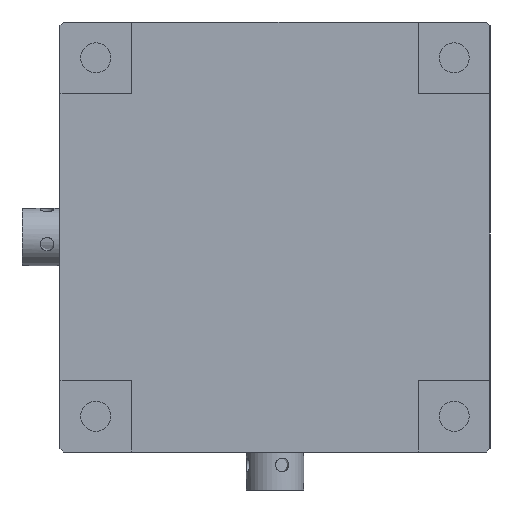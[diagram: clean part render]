
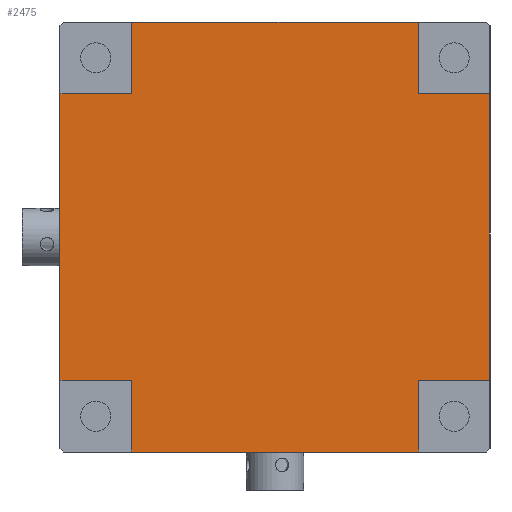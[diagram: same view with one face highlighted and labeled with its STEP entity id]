
A CAD part, front view. The second image highlights one B-rep face of the part: STEP entity #2475.
In plain terms, the highlighted planar face has unit normal (0, -1, 0).
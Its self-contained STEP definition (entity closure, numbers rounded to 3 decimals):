
#67 = EDGE_CURVE ( 'NONE', #5115, #147, #7533, .T. ) ;
#118 = VECTOR ( 'NONE', #4625, 1000. ) ;
#147 = VERTEX_POINT ( 'NONE', #3531 ) ;
#190 = LINE ( 'NONE', #1541, #1587 ) ;
#315 = DIRECTION ( 'NONE',  ( -1., 0., 0. ) ) ;
#581 = VERTEX_POINT ( 'NONE', #6015 ) ;
#787 = FACE_OUTER_BOUND ( 'NONE', #2776, .T. ) ;
#801 = ORIENTED_EDGE ( 'NONE', *, *, #7294, .F. ) ;
#943 = CARTESIAN_POINT ( 'NONE',  ( 10., 0.5, 0. ) ) ;
#974 = CARTESIAN_POINT ( 'NONE',  ( 10., 0.5, 60. ) ) ;
#1086 = CARTESIAN_POINT ( 'NONE',  ( 60., 0.5, 10. ) ) ;
#1215 = ORIENTED_EDGE ( 'NONE', *, *, #6021, .F. ) ;
#1309 = ORIENTED_EDGE ( 'NONE', *, *, #6066, .F. ) ;
#1471 = EDGE_CURVE ( 'NONE', #7653, #5667, #1743, .T. ) ;
#1541 = CARTESIAN_POINT ( 'NONE',  ( 50., 0.5, 10. ) ) ;
#1587 = VECTOR ( 'NONE', #7356, 1000. ) ;
#1672 = LINE ( 'NONE', #3141, #5557 ) ;
#1743 = LINE ( 'NONE', #7514, #5251 ) ;
#1809 = DIRECTION ( 'NONE',  ( -1., 0., 0. ) ) ;
#1936 = ORIENTED_EDGE ( 'NONE', *, *, #2197, .F. ) ;
#1989 = CARTESIAN_POINT ( 'NONE',  ( 10., 0.5, 10. ) ) ;
#2033 = DIRECTION ( 'NONE',  ( -1., 0., 0. ) ) ;
#2075 = ORIENTED_EDGE ( 'NONE', *, *, #2897, .F. ) ;
#2197 = EDGE_CURVE ( 'NONE', #5667, #7160, #6641, .T. ) ;
#2331 = DIRECTION ( 'NONE',  ( 0., 0., 1. ) ) ;
#2424 = DIRECTION ( 'NONE',  ( 0., 0., -1. ) ) ;
#2475 = ADVANCED_FACE ( 'NONE', ( #787 ), #3578, .F. ) ;
#2527 = VECTOR ( 'NONE', #6584, 1000. ) ;
#2529 = CARTESIAN_POINT ( 'NONE',  ( 60., 0.5, 10. ) ) ;
#2613 = DIRECTION ( 'NONE',  ( 0., 0., 1. ) ) ;
#2725 = ORIENTED_EDGE ( 'NONE', *, *, #8890, .F. ) ;
#2776 = EDGE_LOOP ( 'NONE', ( #2725, #3741, #2075, #1936, #4529, #1215, #5760, #1309, #801, #7422, #7721, #6622 ) ) ;
#2799 = LINE ( 'NONE', #1989, #6059 ) ;
#2874 = DIRECTION ( 'NONE',  ( 0., 0., 1. ) ) ;
#2897 = EDGE_CURVE ( 'NONE', #7160, #5115, #1672, .T. ) ;
#2973 = CARTESIAN_POINT ( 'NONE',  ( 0., 0.5, 50. ) ) ;
#3141 = CARTESIAN_POINT ( 'NONE',  ( 60., 0.5, 50. ) ) ;
#3214 = LINE ( 'NONE', #6086, #8736 ) ;
#3296 = EDGE_CURVE ( 'NONE', #581, #7373, #6678, .T. ) ;
#3334 = VECTOR ( 'NONE', #5224, 1000. ) ;
#3370 = LINE ( 'NONE', #6248, #4852 ) ;
#3531 = CARTESIAN_POINT ( 'NONE',  ( 50., 0.5, 10. ) ) ;
#3558 = CARTESIAN_POINT ( 'NONE',  ( 10., 0.5, 60. ) ) ;
#3578 = PLANE ( 'NONE',  #5121 ) ;
#3582 = VERTEX_POINT ( 'NONE', #2973 ) ;
#3741 = ORIENTED_EDGE ( 'NONE', *, *, #67, .F. ) ;
#3792 = CARTESIAN_POINT ( 'NONE',  ( 10., 0.5, 50. ) ) ;
#3927 = CARTESIAN_POINT ( 'NONE',  ( 50., 0.5, 0. ) ) ;
#4005 = VERTEX_POINT ( 'NONE', #6992 ) ;
#4392 = EDGE_CURVE ( 'NONE', #5095, #6510, #5257, .T. ) ;
#4420 = CARTESIAN_POINT ( 'NONE',  ( 60., 0.5, 50. ) ) ;
#4529 = ORIENTED_EDGE ( 'NONE', *, *, #1471, .F. ) ;
#4625 = DIRECTION ( 'NONE',  ( 1., 0., 0. ) ) ;
#4811 = DIRECTION ( 'NONE',  ( 0., 0., -1. ) ) ;
#4852 = VECTOR ( 'NONE', #2613, 1000. ) ;
#5095 = VERTEX_POINT ( 'NONE', #6208 ) ;
#5115 = VERTEX_POINT ( 'NONE', #2529 ) ;
#5121 = AXIS2_PLACEMENT_3D ( 'NONE', #6465, #8731, #2874 ) ;
#5166 = DIRECTION ( 'NONE',  ( 1., 0., 0. ) ) ;
#5224 = DIRECTION ( 'NONE',  ( 1., 0., 0. ) ) ;
#5251 = VECTOR ( 'NONE', #4811, 1000. ) ;
#5257 = LINE ( 'NONE', #3927, #6189 ) ;
#5557 = VECTOR ( 'NONE', #2424, 1000. ) ;
#5667 = VERTEX_POINT ( 'NONE', #6800 ) ;
#5760 = ORIENTED_EDGE ( 'NONE', *, *, #3296, .F. ) ;
#5949 = LINE ( 'NONE', #974, #118 ) ;
#5958 = CARTESIAN_POINT ( 'NONE',  ( 10., 0.5, 10. ) ) ;
#6015 = CARTESIAN_POINT ( 'NONE',  ( 10., 0.5, 50. ) ) ;
#6021 = EDGE_CURVE ( 'NONE', #7373, #7653, #5949, .T. ) ;
#6059 = VECTOR ( 'NONE', #2033, 1000. ) ;
#6066 = EDGE_CURVE ( 'NONE', #3582, #581, #3214, .T. ) ;
#6086 = CARTESIAN_POINT ( 'NONE',  ( 0., 0.5, 50. ) ) ;
#6189 = VECTOR ( 'NONE', #315, 1000. ) ;
#6208 = CARTESIAN_POINT ( 'NONE',  ( 50., 0.5, 0. ) ) ;
#6243 = VERTEX_POINT ( 'NONE', #5958 ) ;
#6248 = CARTESIAN_POINT ( 'NONE',  ( 0., 0.5, 10. ) ) ;
#6465 = CARTESIAN_POINT ( 'NONE',  ( 0., 0.5, 0. ) ) ;
#6510 = VERTEX_POINT ( 'NONE', #943 ) ;
#6584 = DIRECTION ( 'NONE',  ( 0., 0., 1. ) ) ;
#6622 = ORIENTED_EDGE ( 'NONE', *, *, #4392, .F. ) ;
#6641 = LINE ( 'NONE', #8061, #3334 ) ;
#6678 = LINE ( 'NONE', #3792, #2527 ) ;
#6800 = CARTESIAN_POINT ( 'NONE',  ( 50., 0.5, 50. ) ) ;
#6992 = CARTESIAN_POINT ( 'NONE',  ( 0., 0.5, 10. ) ) ;
#7034 = VECTOR ( 'NONE', #1809, 1000. ) ;
#7120 = EDGE_CURVE ( 'NONE', #6510, #6243, #8201, .T. ) ;
#7160 = VERTEX_POINT ( 'NONE', #4420 ) ;
#7294 = EDGE_CURVE ( 'NONE', #4005, #3582, #3370, .T. ) ;
#7356 = DIRECTION ( 'NONE',  ( 0., 0., -1. ) ) ;
#7369 = EDGE_CURVE ( 'NONE', #6243, #4005, #2799, .T. ) ;
#7373 = VERTEX_POINT ( 'NONE', #3558 ) ;
#7422 = ORIENTED_EDGE ( 'NONE', *, *, #7369, .F. ) ;
#7514 = CARTESIAN_POINT ( 'NONE',  ( 50., 0.5, 60. ) ) ;
#7533 = LINE ( 'NONE', #1086, #7034 ) ;
#7607 = CARTESIAN_POINT ( 'NONE',  ( 50., 0.5, 60. ) ) ;
#7653 = VERTEX_POINT ( 'NONE', #7607 ) ;
#7721 = ORIENTED_EDGE ( 'NONE', *, *, #7120, .F. ) ;
#8061 = CARTESIAN_POINT ( 'NONE',  ( 50., 0.5, 50. ) ) ;
#8201 = LINE ( 'NONE', #8812, #8330 ) ;
#8330 = VECTOR ( 'NONE', #2331, 1000. ) ;
#8731 = DIRECTION ( 'NONE',  ( 0., 1., 0. ) ) ;
#8736 = VECTOR ( 'NONE', #5166, 1000. ) ;
#8812 = CARTESIAN_POINT ( 'NONE',  ( 10., 0.5, 0. ) ) ;
#8890 = EDGE_CURVE ( 'NONE', #147, #5095, #190, .T. ) ;
